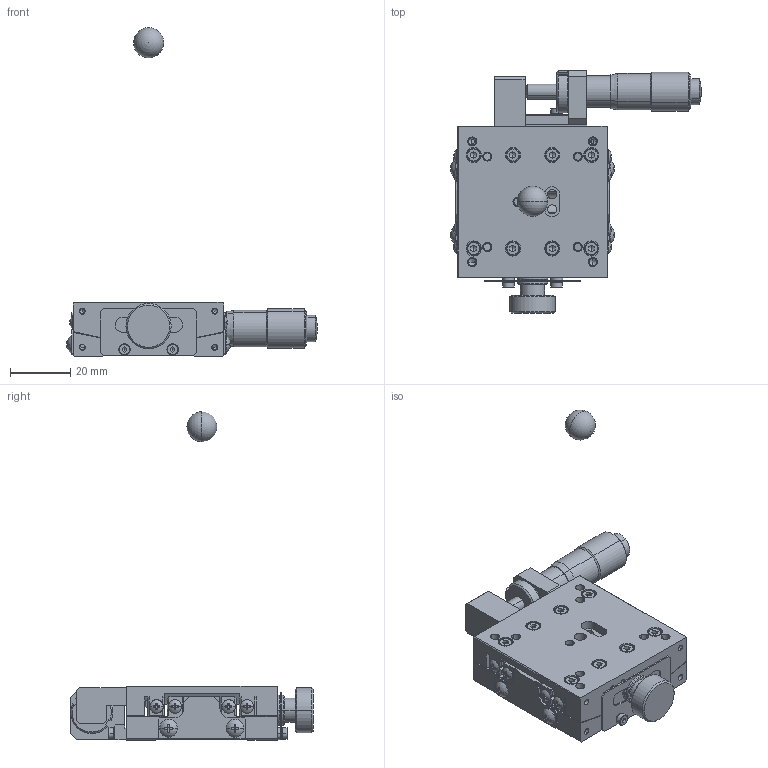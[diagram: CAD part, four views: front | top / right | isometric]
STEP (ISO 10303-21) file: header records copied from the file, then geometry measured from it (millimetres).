
FILE_DESCRIPTION (( 'STEP AP214' ), '1' );
FILE_NAME ('ST05A-S1B-R.STEP', '2007-01-19T00:30:03', ( ' ' ), ( ' ' ), 'SwSTEP 2.0', 'SolidWorks 2006052', '' );
FILE_SCHEMA (( 'AUTOMOTIVE_DESIGN' ));
Length unit declared in the file: millimetre
Products named in the file (5): 002580-1020(3D)-1; ST05A-S1B-R-Part-1; 002580-1010(3D)-1; MICROMETERHEAD(MHS4-13)spindle-6; ST05A-S1B-R
Assembly tree (4 placements, depth 2):
  ST05A-S1B-R
    MICROMETERHEAD(MHS4-13)spindle-6
    002580-1020(3D)-1
    ST05A-S1B-R-Part-1
    002580-1010(3D)-1
Bounding box: 83.18 x 80.5 x 109 mm (x, y, z)
Volume: 47055.7 mm3; surface area: 32682.9 mm2
Topology: 4 solids, 38 shells, 1770 faces, 4305 edges, 2577 vertices
Faces by surface type: plane 768, cylinder 565, cone 339, torus 68, sphere 30
Entity records: 54559 total; most frequent: CARTESIAN_POINT 12882, DIRECTION 9050, ORIENTED_EDGE 8396, EDGE_CURVE 4198, AXIS2_PLACEMENT_3D 3495, VERTEX_POINT 2574, VECTOR 2060, LINE 2060
